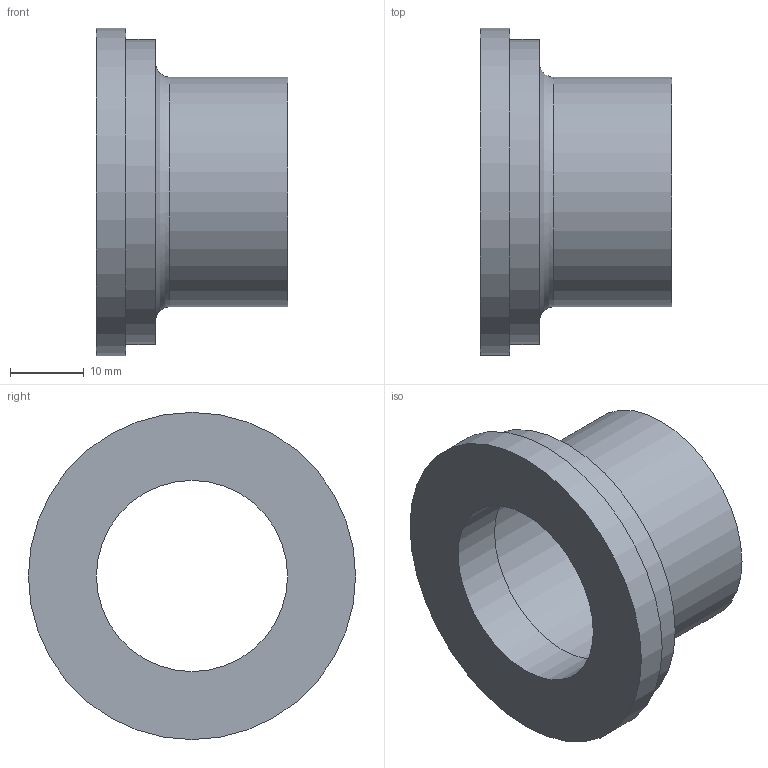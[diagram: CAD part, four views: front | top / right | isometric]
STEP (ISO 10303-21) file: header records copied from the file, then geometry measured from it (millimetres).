
FILE_DESCRIPTION((''),'2;1');
FILE_NAME('G:\Engineering\Public\RYSUNKI\SANHA POLSKA\4372\STEP\14372_28-112(2).stp','2014-03-31T12:53:38',('haldrzynski'),(''),'Autodesk Inventor 2009','Autodesk Inventor 2009','');
FILE_SCHEMA(('AUTOMOTIVE_DESIGN { 1 0 10303 214 1 1 1 1 }'));
Length unit declared in the file: millimetre
Products named in the file (1): 14372_28-112(2)
Bounding box: 26 x 44.5 x 44.5 mm (x, y, z)
Volume: 10063.6 mm3; surface area: 7054.4 mm2
Topology: 1 solids, 1 shells, 11 faces, 17 edges, 11 vertices
Faces by surface type: plane 5, cylinder 5, bspline 1
Full cylindrical faces by diameter (mm): 26 x1, 28 x1, 31.2 x1, 41.5 x1, 44.5 x1
Entity records: 294 total; most frequent: CARTESIAN_POINT 78, DIRECTION 44, AXIS2_PLACEMENT_3D 22, ORIENTED_EDGE 22, EDGE_LOOP 22, VERTEX_POINT 11, CIRCLE 11, EDGE_CURVE 11
